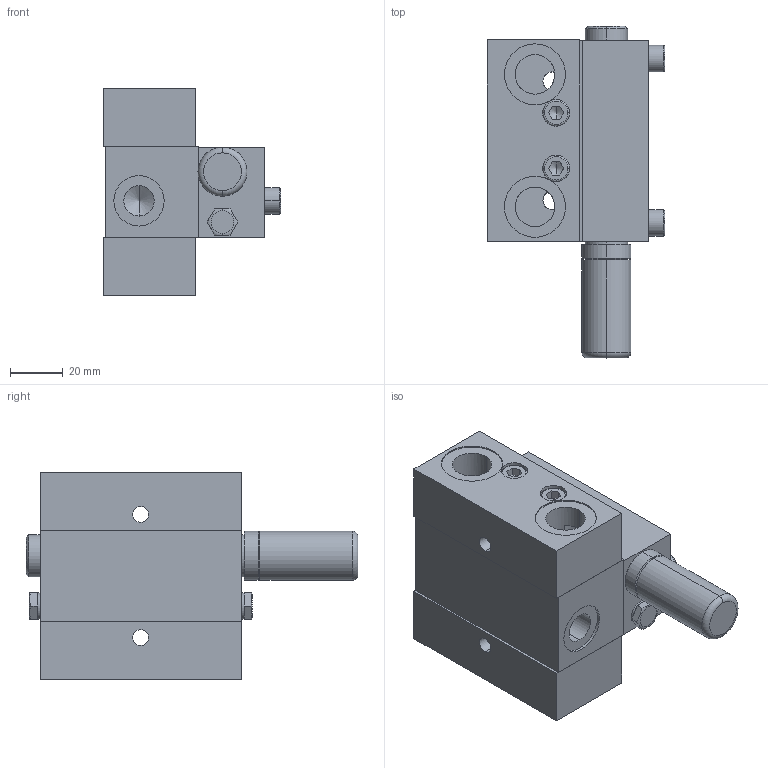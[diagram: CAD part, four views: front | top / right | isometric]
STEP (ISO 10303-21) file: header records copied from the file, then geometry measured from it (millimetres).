
FILE_DESCRIPTION((''),'2;1');
FILE_NAME('5010155_3D.stp','2017-05-31T13:24:37',(''),(''),'Mechanical Desktop 2008','Mechanical Desktop 2008',', , ');
FILE_SCHEMA(('AUTOMOTIVE_DESIGN { 1 2 10303 214 1 1 1 1 }'));
Length unit declared in the file: millimetre
Products named in the file (10): 5010155_3D; PART1; PART3; CYLINDER HEAD CAP SCREW - UNI 5931 - M 6 X  30; ~PART1; PART2; ~~PART1; CYLINDER HEAD CAP SCREW - UNI 5931 - M 6 X  25; ~~~PART1; PART4
Assembly tree (12 placements, depth 2):
  5010155_3D
    PART1
    PART3  x2
    CYLINDER HEAD CAP SCREW - UNI 5931 - M 6 X  30  x2
    ~PART1
    PART2
    ~~PART1
    CYLINDER HEAD CAP SCREW - UNI 5931 - M 6 X  25  x2
    ~~~PART1
    PART4
Bounding box: 67 x 125.3 x 78.5 mm (x, y, z)
Volume: 249820.5 mm3; surface area: 69469.3 mm2
Topology: 12 solids, 12 shells, 413 faces, 1002 edges, 638 vertices
Faces by surface type: plane 181, cylinder 132, cone 58, bspline 36, torus 6
Entity records: 10255 total; most frequent: CARTESIAN_POINT 2327, DIRECTION 1612, ORIENTED_EDGE 1582, EDGE_CURVE 791, AXIS2_PLACEMENT_3D 592, VERTEX_POINT 515, VECTOR 428, LINE 428
